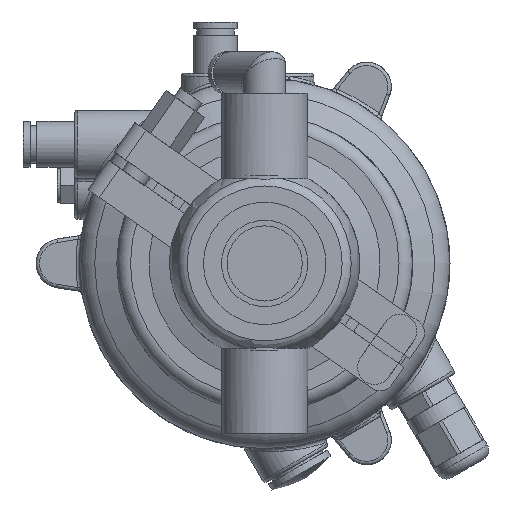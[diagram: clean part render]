
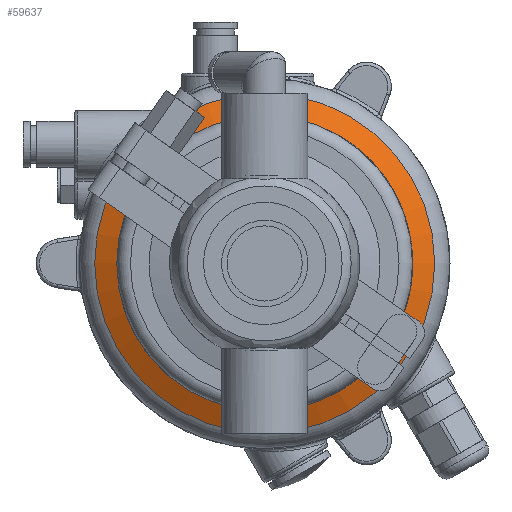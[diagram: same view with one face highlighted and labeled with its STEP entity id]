
A CAD part, front view. The second image highlights one B-rep face of the part: STEP entity #59637.
In plain terms, the highlighted conical face has half-angle 64 degrees and reference radius 36 mm.
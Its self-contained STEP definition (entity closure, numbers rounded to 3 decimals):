
#2676 = EDGE_LOOP ( 'NONE', ( #36274 ) ) ;
#4354 = ORIENTED_EDGE ( 'NONE', *, *, #19880, .T. ) ;
#6105 = CARTESIAN_POINT ( 'NONE',  ( 0., 0., 0. ) ) ;
#6404 = FACE_BOUND ( 'NONE', #2676, .T. ) ;
#6594 = AXIS2_PLACEMENT_3D ( 'NONE', #26465, #41566, #31579 ) ;
#14252 = EDGE_LOOP ( 'NONE', ( #4354 ) ) ;
#14388 = CIRCLE ( 'NONE', #6594, 36. ) ;
#19880 = EDGE_CURVE ( 'NONE', #35117, #35117, #37868, .T. ) ;
#24745 = DIRECTION ( 'NONE',  ( 0., 1., 0. ) ) ;
#25889 = VERTEX_POINT ( 'NONE', #43832 ) ;
#26465 = CARTESIAN_POINT ( 'NONE',  ( 0., 0., 0. ) ) ;
#28661 = DIRECTION ( 'NONE',  ( 0., -1., 0. ) ) ;
#29278 = DIRECTION ( 'NONE',  ( 0., 0., -1. ) ) ;
#29581 = DIRECTION ( 'NONE',  ( 0., 0., 1. ) ) ;
#31579 = DIRECTION ( 'NONE',  ( 0., 0., -1. ) ) ;
#33042 = AXIS2_PLACEMENT_3D ( 'NONE', #56563, #28661, #29278 ) ;
#34518 = CARTESIAN_POINT ( 'NONE',  ( 0., 6.832, -50.007 ) ) ;
#35117 = VERTEX_POINT ( 'NONE', #34518 ) ;
#36274 = ORIENTED_EDGE ( 'NONE', *, *, #46232, .F. ) ;
#37868 = CIRCLE ( 'NONE', #33042, 50.007 ) ;
#41566 = DIRECTION ( 'NONE',  ( 0., -1., 0. ) ) ;
#42155 = CONICAL_SURFACE ( 'NONE', #47035, 36., 1.117 ) ;
#43832 = CARTESIAN_POINT ( 'NONE',  ( 0., 0., -36. ) ) ;
#46232 = EDGE_CURVE ( 'NONE', #25889, #25889, #14388, .T. ) ;
#47035 = AXIS2_PLACEMENT_3D ( 'NONE', #6105, #24745, #29581 ) ;
#48122 = FACE_OUTER_BOUND ( 'NONE', #14252, .T. ) ;
#56563 = CARTESIAN_POINT ( 'NONE',  ( 0., 6.832, 0. ) ) ;
#59637 = ADVANCED_FACE ( 'NONE', ( #48122, #6404 ), #42155, .T. ) ;
